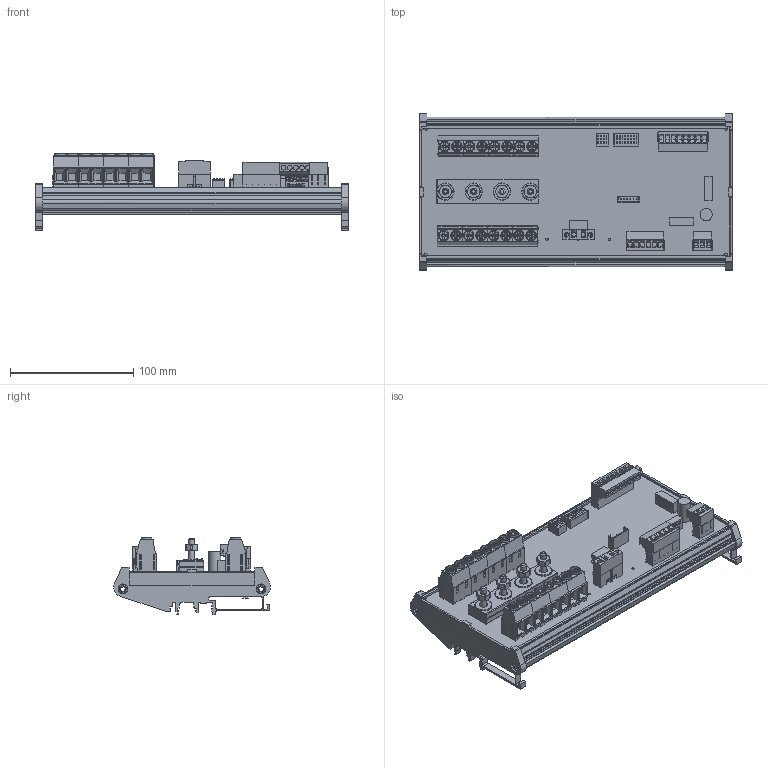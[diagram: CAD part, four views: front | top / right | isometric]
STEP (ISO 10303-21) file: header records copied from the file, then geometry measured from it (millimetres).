
FILE_DESCRIPTION(('FreeCAD Model'),'2;1');
FILE_NAME('C:/3D Files/Stringhe/ST0N/ST0N1625/ST0N1625.step', '2021-01-27T14:22:16',('Author'),(''), 'Open CASCADE STEP processor 7.2','FreeCAD','Unknown');
FILE_SCHEMA(('AUTOMOTIVE_DESIGN { 1 0 10303 214 1 1 1 1 }'));
Length unit declared in the file: millimetre
Products named in the file (40): ST0N1625; Mstb_3P_F; Mstb_6P_F; Mstb_3Pc_M; Mstb_6Pc_M; AmpModu_6P_M; DipSwitch8; DipSwitch4; Stampato; Dado6MA003; Dado6MA004; Dado6MA005; Dado6MA006; Rondella6; Rondella007; Rondella008; Rondella009; CH_01-02; CH_03-04; CH_05-06; CH_09-10; CH_11-12; CH_13-14; CN3_M; Profilo_254x128; CN3_F; IB2405LS-1W; ELNA_470_uF_35_V; VTBSE-6x35; VTBSE-6x031; VTBSE-6x032; VTBSE-6x033; Barra_8.2a_cm; Barra_8.2a_cm001; Barra_8.2a_cm002; CH_07-08; CH_15-16; Mstb_8P_F; Mstb_8Pc_M; IB2405LS-1W001
Assembly tree (39 placements, depth 2):
  ST0N1625
    Mstb_3P_F
    Mstb_6P_F
    Mstb_3Pc_M
    Mstb_6Pc_M
    AmpModu_6P_M
    DipSwitch8
    DipSwitch4
    Stampato
    Dado6MA003
    Dado6MA004
    Dado6MA005
    Dado6MA006
    Rondella6
    Rondella007
    Rondella008
    Rondella009
    CH_01-02
    CH_03-04
    CH_05-06
    CH_09-10
    CH_11-12
    CH_13-14
    CN3_M
    Profilo_254x128
    CN3_F
    IB2405LS-1W
    ELNA_470_uF_35_V
    VTBSE-6x35
    VTBSE-6x031
    VTBSE-6x032
    VTBSE-6x033
    Barra_8.2a_cm
    Barra_8.2a_cm001
    Barra_8.2a_cm002
    CH_07-08
    CH_15-16
    Mstb_8P_F
    Mstb_8Pc_M
    IB2405LS-1W001
Bounding box: 254 x 127.59 x 63.19 mm (x, y, z)
Volume: 258845.9 mm3; surface area: 266942.6 mm2
Topology: 63 solids, 99 shells, 4355 faces, 13451 edges, 13731 vertices
Faces by surface type: plane 3223, cylinder 734, bspline 217, cone 93, torus 54, sphere 32, extrusion 2
Full cylindrical faces by diameter (mm): 0.5 x8, 0.75 x36, 1 x2, 1.5 x17, 1.6 x2, 1.8 x2, 2.05 x2, 2.5 x2, 3.3 x2, 3.5 x2, 3.8 x2, 4 x21, 4.3 x2, 4.917 x4, 5 x8, 6.6 x4, 7 x12, 7.2 x16, 7.5 x16, 7.9 x4, 8.66 x16, 9.202 x2, 10 x5, 14 x4
Entity records: 345472 total; most frequent: CARTESIAN_POINT 76882, DIRECTION 42559, VECTOR 28550, LINE 28548, ORIENTED_EDGE 23248, PCURVE 23248, DEFINITIONAL_REPRESENTATION 23248, EDGE_CURVE 11937
